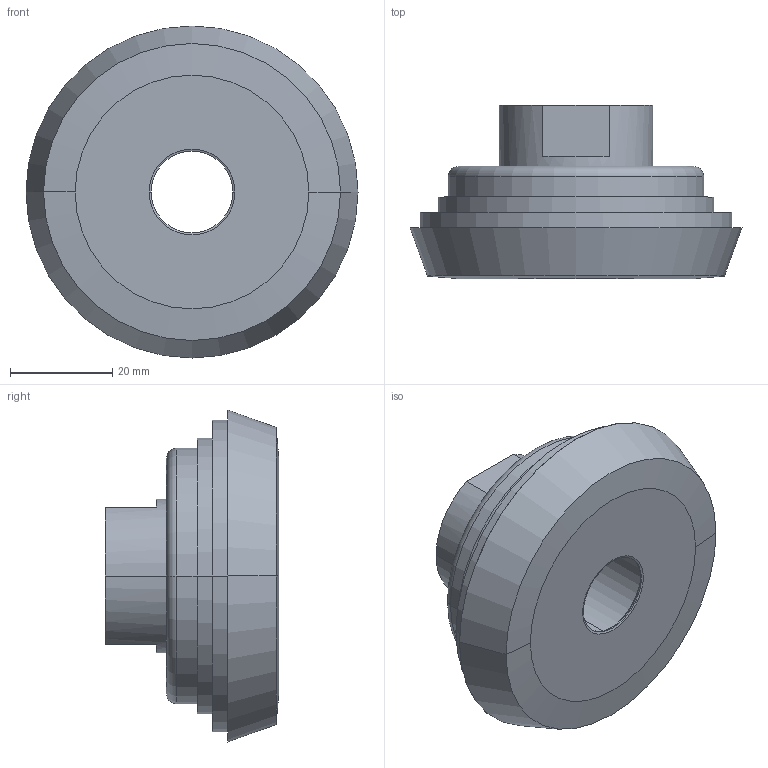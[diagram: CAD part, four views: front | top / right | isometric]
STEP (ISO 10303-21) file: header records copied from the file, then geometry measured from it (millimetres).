
FILE_DESCRIPTION((''),'2;1');
FILE_NAME('KMM020370102','2013-06-24T',('moal'),(''),'PRO/ENGINEER BY PARAMETRIC TECHNOLOGY CORPORATION, 2005110','PRO/ENGINEER BY PARAMETRIC TECHNOLOGY CORPORATION, 2005110','');
FILE_SCHEMA(('CONFIG_CONTROL_DESIGN'));
Length unit declared in the file: millimetre
Products named in the file (1): KMM020370102
Bounding box: 65 x 34 x 65 mm (x, y, z)
Volume: 54236.7 mm3; surface area: 12537.1 mm2
Topology: 1 solids, 1 shells, 37 faces, 78 edges, 48 vertices
Faces by surface type: cylinder 14, plane 11, cone 10, torus 2
Entity records: 1044 total; most frequent: DIRECTION 198, CARTESIAN_POINT 163, ORIENTED_EDGE 156, AXIS2_PLACEMENT_3D 83, EDGE_CURVE 78, VERTEX_POINT 48, CIRCLE 46, EDGE_LOOP 44
